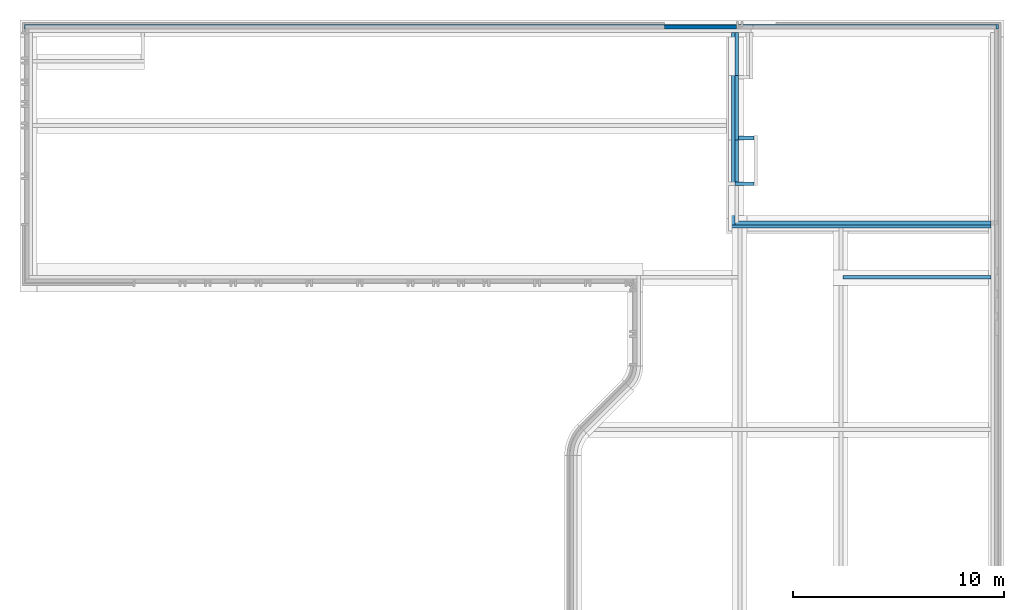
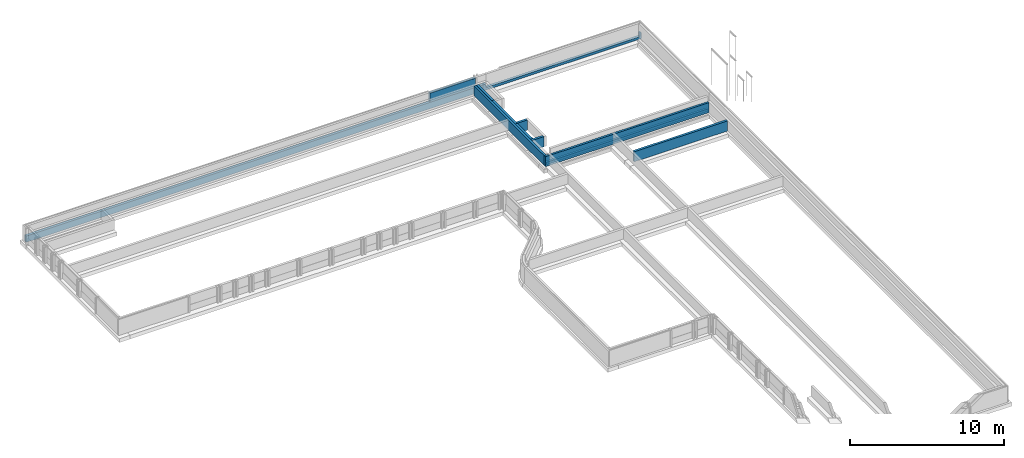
# One storey, part 8 of 15: 11 walls, 1 opening.
"""IFC2X3 building model written with IfcOpenShell, lengths in millimetres."""

from ifc_helpers import new_model, entity, si_unit, converted_unit, derived_unit, direction, frame, frame_2d, origin, place, context, subcontext, project, spatial, rectangle, extrude, material, layer, layer_set, layer_usage, type_object, element, save


model = new_model("IFC2X3")

# Units and contexts
model_context = context("Model", 3, precision=0.01, world=origin(), true_north=direction((6.123031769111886e-17, 1.0)))
body_context = subcontext(model_context, "Body", "Model", "MODEL_VIEW")
ifc_project = project(units=[si_unit("LENGTHUNIT", "METRE", prefix="MILLI"), si_unit("AREAUNIT", "SQUARE_METRE"), si_unit("VOLUMEUNIT", "CUBIC_METRE"), converted_unit("PLANEANGLEUNIT", "DEGREE", entity("IfcRatioMeasure", 0.017453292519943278), si_unit("PLANEANGLEUNIT", "RADIAN"), dimensions=[0, 0, 0, 0, 0, 0, 0]), si_unit("MASSUNIT", "GRAM", prefix="KILO"), derived_unit("MASSDENSITYUNIT", [(si_unit("MASSUNIT", "GRAM", prefix="KILO"), 1), (si_unit("LENGTHUNIT", "METRE"), -3)]), derived_unit("IONCONCENTRATIONUNIT", [(si_unit("MASSUNIT", "GRAM", prefix="KILO"), 1), (si_unit("LENGTHUNIT", "METRE"), -3)]), derived_unit("MOMENTOFINERTIAUNIT", [(si_unit("LENGTHUNIT", "METRE"), 4)]), si_unit("TIMEUNIT", "SECOND"), si_unit("FREQUENCYUNIT", "HERTZ"), si_unit("THERMODYNAMICTEMPERATUREUNIT", "DEGREE_CELSIUS"), derived_unit("THERMALTRANSMITTANCEUNIT", [(si_unit("MASSUNIT", "GRAM", prefix="KILO"), 1), (si_unit("THERMODYNAMICTEMPERATUREUNIT", "KELVIN"), -1), (si_unit("TIMEUNIT", "SECOND"), -3)]), derived_unit("THERMALCONDUCTANCEUNIT", [(si_unit("MASSUNIT", "GRAM", prefix="KILO"), 1), (si_unit("THERMODYNAMICTEMPERATUREUNIT", "KELVIN"), -1), (si_unit("TIMEUNIT", "SECOND"), -3), (si_unit("LENGTHUNIT", "METRE"), 1)]), derived_unit("VOLUMETRICFLOWRATEUNIT", [(si_unit("LENGTHUNIT", "METRE"), 3), (si_unit("TIMEUNIT", "SECOND"), -1)]), derived_unit("MASSFLOWRATEUNIT", [(si_unit("MASSUNIT", "GRAM", prefix="KILO"), 1), (si_unit("TIMEUNIT", "SECOND"), -1)]), derived_unit("ROTATIONALFREQUENCYUNIT", [(si_unit("TIMEUNIT", "SECOND"), -1)]), si_unit("ELECTRICCURRENTUNIT", "AMPERE"), si_unit("ELECTRICVOLTAGEUNIT", "VOLT"), si_unit("POWERUNIT", "WATT"), si_unit("FORCEUNIT", "NEWTON", prefix="KILO"), si_unit("ILLUMINANCEUNIT", "LUX"), si_unit("LUMINOUSFLUXUNIT", "LUMEN"), si_unit("LUMINOUSINTENSITYUNIT", "CANDELA"), derived_unit("USERDEFINED", [(si_unit("MASSUNIT", "GRAM", prefix="KILO"), -1), (si_unit("LENGTHUNIT", "METRE"), -2), (si_unit("TIMEUNIT", "SECOND"), 3), (si_unit("LUMINOUSFLUXUNIT", "LUMEN"), 1)]), derived_unit("USERDEFINED", [(si_unit("MASSUNIT", "GRAM", prefix="KILO"), 1), (si_unit("TIMEUNIT", "SECOND"), -3), (si_unit("LENGTHUNIT", "METRE"), 3), (si_unit("ELECTRICCURRENTUNIT", "AMPERE"), -2)]), derived_unit("SOUNDPOWERUNIT", [(si_unit("MASSUNIT", "GRAM", prefix="KILO"), 1), (si_unit("TIMEUNIT", "SECOND"), -3), (si_unit("LENGTHUNIT", "METRE"), 2)]), derived_unit("SOUNDPRESSUREUNIT", [(si_unit("MASSUNIT", "GRAM", prefix="KILO"), 1), (si_unit("LENGTHUNIT", "METRE"), -1), (si_unit("TIMEUNIT", "SECOND"), -2)]), derived_unit("LINEARVELOCITYUNIT", [(si_unit("LENGTHUNIT", "METRE"), 1), (si_unit("TIMEUNIT", "SECOND"), -1)]), si_unit("PRESSUREUNIT", "PASCAL"), derived_unit("USERDEFINED", [(si_unit("MASSUNIT", "GRAM", prefix="KILO"), 1), (si_unit("LENGTHUNIT", "METRE"), -2), (si_unit("TIMEUNIT", "SECOND"), -2)]), derived_unit("LINEARFORCEUNIT", [(si_unit("MASSUNIT", "GRAM", prefix="KILO"), 1), (si_unit("TIMEUNIT", "SECOND"), -2)]), derived_unit("PLANARFORCEUNIT", [(si_unit("MASSUNIT", "GRAM", prefix="KILO"), 1), (si_unit("LENGTHUNIT", "METRE"), -1), (si_unit("TIMEUNIT", "SECOND"), -2)]), derived_unit("SPECIFICHEATCAPACITYUNIT", [(si_unit("THERMODYNAMICTEMPERATUREUNIT", "KELVIN"), -1), (si_unit("LENGTHUNIT", "METRE"), 2), (si_unit("TIMEUNIT", "SECOND"), -2)]), derived_unit("HEATINGVALUEUNIT", [(si_unit("LENGTHUNIT", "METRE"), 2), (si_unit("TIMEUNIT", "SECOND"), -2)]), derived_unit("VAPORPERMEABILITYUNIT", [(si_unit("LENGTHUNIT", "METRE"), -1), (si_unit("TIMEUNIT", "SECOND"), 1)]), derived_unit("DYNAMICVISCOSITYUNIT", [(si_unit("MASSUNIT", "GRAM", prefix="KILO"), 1), (si_unit("TIMEUNIT", "SECOND"), -1), (si_unit("LENGTHUNIT", "METRE"), -1)]), derived_unit("THERMALEXPANSIONCOEFFICIENTUNIT", [(si_unit("THERMODYNAMICTEMPERATUREUNIT", "KELVIN"), -1)]), derived_unit("MODULUSOFELASTICITYUNIT", [(si_unit("MASSUNIT", "GRAM", prefix="KILO"), 1), (si_unit("LENGTHUNIT", "METRE"), -1), (si_unit("TIMEUNIT", "SECOND"), -2)]), derived_unit("ISOTHERMALMOISTURECAPACITYUNIT", [(si_unit("LENGTHUNIT", "METRE"), 3), (si_unit("MASSUNIT", "GRAM", prefix="KILO"), -1)]), derived_unit("MOISTUREDIFFUSIVITYUNIT", [(si_unit("TIMEUNIT", "SECOND"), -1), (si_unit("LENGTHUNIT", "METRE"), 2)])], contexts=[model_context])

# Site, building, storey
site_placement = place(None, frame((0.0, 300.0, 0.0)))
site = spatial("IfcSite", under=ifc_project, at=site_placement, Name="<Kadastrale nummers>", CompositionType="ELEMENT")
building_placement = place(site_placement, origin())
building = spatial("IfcBuilding", under=site, at=building_placement, CompositionType="ELEMENT")
storey_placement = place(building_placement, frame((0.0, 0.0, -1570.0)))
storey = spatial("IfcBuildingStorey", under=building, at=storey_placement, Name="-1 fundering", CompositionType="ELEMENT", Elevation=-1570.0)

# Walls
ifc_material_1 = material(Name="ISR_Gips")
ifc_layer_1 = layer(ifc_material_1, 1.0)
ifc_material_2 = material(Name="ISR_Beton ihwg")
ifc_layer_2 = layer(ifc_material_2, 178.0)
ifc_layer_3 = layer(ifc_material_1, 1.0)
ifc_layer_set_1 = layer_set([ifc_layer_1, ifc_layer_2, ifc_layer_3], Name="Basic Wall:28_DAT_ihw beton_180")
ifc_layer_usage_1 = layer_usage(ifc_layer_set_1, "AXIS2", "NEGATIVE", 90.00000000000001)
wall_type_1 = type_object("IfcWallType", Name="Basic Wall:28_DAT_ihw beton_180", PredefinedType="STANDARD", material=ifc_layer_set_1)
wall_1_placement = place(storey_placement, frame((36380.039937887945, 40685.0, 300.0)))
element("IfcWallStandardCase", 1, at=wall_1_placement, inside=storey, type_object=wall_type_1, material=ifc_layer_usage_1, Name="Basic Wall:28_DAT_ihw beton_180", ObjectType="Basic Wall:28_DAT_ihw beton_180", context=body_context, shape_type="SweptSolid", body=[
    extrude(rectangle(XDim=12119.960062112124, YDim=179.99999999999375, at=frame_2d((6059.980031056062, -2.1955770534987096e-12), x_axis=(-1.0, 0.0))), origin(), (0.0, 0.0, 1.0), 188.00000000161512),
])
ifc_layer_4 = layer(ifc_material_1, 1.0)
ifc_material_3 = material(Name="ISR_Kalkzandsteen")
ifc_layer_5 = layer(ifc_material_3, 173.0)
ifc_layer_6 = layer(ifc_material_1, 1.0)
ifc_layer_set_2 = layer_set([ifc_layer_4, ifc_layer_5, ifc_layer_6], Name="Basic Wall:28_DAT_kalkzandsteen_175mm")
ifc_layer_usage_2 = layer_usage(ifc_layer_set_2, "AXIS2", "NEGATIVE", 87.49999999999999)
wall_type_2 = type_object("IfcWallType", Name="Basic Wall:28_DAT_kalkzandsteen_175mm", PredefinedType="STANDARD", material=ifc_layer_set_2)
wall_2_placement = place(storey_placement, frame((36467.53993788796, 47680.0, 300.0), z_axis=(0.0, 0.0, 1.0), x_axis=(0.0, -1.0, 0.0)))
element("IfcWallStandardCase", 2, at=wall_2_placement, inside=storey, type_object=wall_type_2, material=ifc_layer_usage_2, Name="Basic Wall:28_DAT_kalkzandsteen_175mm", ObjectType="Basic Wall:28_DAT_kalkzandsteen_175mm", context=body_context, shape_type="SweptSolid", body=[
    extrude(rectangle(XDim=3058.6866772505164, YDim=175.00000000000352, at=frame_2d((1529.3433386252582, -2.4868995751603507e-13), x_axis=(-1.0, 0.0))), origin(), (0.0, 0.0, 1.0), 800.0000000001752),
])
wall_3_placement = place(storey_placement, frame((36555.03993788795, 44708.81332274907, 300.0)))
element("IfcWallStandardCase", 3, at=wall_3_placement, inside=storey, type_object=wall_type_2, material=ifc_layer_usage_2, Name="Basic Wall:28_DAT_kalkzandsteen_175mm", ObjectType="Basic Wall:28_DAT_kalkzandsteen_175mm", context=body_context, shape_type="SweptSolid", body=[
    extrude(rectangle(XDim=725.0000000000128, YDim=174.99999999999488, at=frame_2d((362.5000000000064, 6.181721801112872e-13), x_axis=(-1.0, 0.0))), origin(), (0.0, 0.0, 1.0), 800.0000000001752),
])
wall_4_placement = place(storey_placement, frame((36380.03993788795, 42534.62500267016, 300.0)))
element("IfcWallStandardCase", 4, at=wall_4_placement, inside=storey, type_object=wall_type_2, material=ifc_layer_usage_2, Name="Basic Wall:28_DAT_kalkzandsteen_175mm", ObjectType="Basic Wall:28_DAT_kalkzandsteen_175mm", context=body_context, shape_type="SweptSolid", body=[
    extrude(rectangle(XDim=900.0000000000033, YDim=174.99999999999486, at=frame_2d((450.00000000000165, 1.8189894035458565e-12), x_axis=(-1.0, 0.0))), origin(), (0.0, 0.0, 1.0), 800.0000000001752),
])
wall_5_placement = place(storey_placement, frame((41487.50000000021, 38112.49999999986, 300.0)))
element("IfcWallStandardCase", 5, at=wall_5_placement, inside=storey, type_object=wall_type_2, material=ifc_layer_usage_2, Name="Basic Wall:28_DAT_kalkzandsteen_175mm", ObjectType="Basic Wall:28_DAT_kalkzandsteen_175mm", context=body_context, shape_type="SweptSolid", body=[
    extrude(rectangle(XDim=7012.499999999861, YDim=175.00000000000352, at=frame_2d((3506.2499999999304, 1.7763568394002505e-13), x_axis=(-1.0, 0.0))), origin(), (0.0, 0.0, 1.0), 800.0000000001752),
])
wall_6_placement = place(storey_placement, frame((36467.53993788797, 49700.0, 300.0), z_axis=(0.0, 0.0, 1.0), x_axis=(0.0, -1.0, 0.0)))
element("IfcWallStandardCase", 6, at=wall_6_placement, inside=storey, type_object=wall_type_2, material=ifc_layer_usage_2, Name="Basic Wall:28_DAT_kalkzandsteen_175mm", ObjectType="Basic Wall:28_DAT_kalkzandsteen_175mm", context=body_context, shape_type="SweptSolid", body=[
    extrude(rectangle(XDim=2020.0000000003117, YDim=175.00000000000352, at=frame_2d((1010.0000000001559, 3.339550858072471e-13), x_axis=(-1.0, 0.0))), origin(), (0.0, 0.0, 1.0), 800.0000000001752),
])
wall_7_placement = place(storey_placement, frame((36467.53993788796, 44621.31332274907, 300.0), z_axis=(0.0, 0.0, 1.0), x_axis=(0.0, -1.0, 0.0)))
element("IfcWallStandardCase", 7, at=wall_7_placement, inside=storey, type_object=wall_type_2, material=ifc_layer_usage_2, Name="Basic Wall:28_DAT_kalkzandsteen_175mm", ObjectType="Basic Wall:28_DAT_kalkzandsteen_175mm", context=body_context, shape_type="SweptSolid", body=[
    extrude(rectangle(XDim=1999.1883200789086, YDim=175.00000000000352, at=frame_2d((999.5941600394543, 3.055333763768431e-13), x_axis=(-1.0, 0.0))), origin(), (0.0, 0.0, 1.0), 800.0000000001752),
])
ifc_material_4 = material(Name="ISR_Isolatie")
ifc_layer_7 = layer(ifc_material_4, 160.0)
ifc_layer_set_3 = layer_set([ifc_layer_7], Name="Basic Wall:21_DAT_isolatie minerale wol_160")
ifc_layer_usage_3 = layer_usage(ifc_layer_set_3, "AXIS2", "POSITIVE", -80.0)
wall_type_3 = type_object("IfcWallType", Name="Basic Wall:21_DAT_isolatie minerale wol_160", PredefinedType="STANDARD", material=ifc_layer_set_3)
wall_8_placement = place(storey_placement, frame((36220.03993788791, 40515.0, 300.0)))
element("IfcWallStandardCase", 8, at=wall_8_placement, inside=storey, type_object=wall_type_3, material=ifc_layer_usage_3, Name="Basic Wall:21_DAT_isolatie minerale wol_160", ObjectType="Basic Wall:21_DAT_isolatie minerale wol_160", context=body_context, shape_type="SweptSolid", body=[
    extrude(rectangle(XDim=12279.960062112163, YDim=159.9999999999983, at=frame_2d((6139.980031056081, -1.8047785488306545e-12), x_axis=(-1.0, 0.0))), origin(), (0.0, 0.0, 1.0), 788.0000000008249),
])
wall_9_placement = place(storey_placement, frame((36300.03993788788, 49700.0, 300.0), z_axis=(0.0, 0.0, 1.0), x_axis=(0.0, -1.0, 0.0)))
element("IfcWallStandardCase", 9, at=wall_9_placement, inside=storey, type_object=wall_type_3, material=ifc_layer_usage_3, Name="Basic Wall:21_DAT_isolatie minerale wol_160", ObjectType="Basic Wall:21_DAT_isolatie minerale wol_160", context=body_context, shape_type="SweptSolid", body=[
    extrude(rectangle(XDim=9104.999999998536, YDim=159.9999999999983, at=frame_2d((4552.499999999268, -1.4281908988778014e-12), x_axis=(-1.0, 0.0))), origin(), (0.0, 0.0, 1.0), 788.0000000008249),
])
ifc_material_5 = material(Name="ISR_Beton_prefab")
ifc_layer_8 = layer(ifc_material_5, 15.0)
ifc_layer_9 = layer(ifc_material_4, 175.0)
ifc_layer_set_4 = layer_set([ifc_layer_8, ifc_layer_9], Name="Basic Wall:21_DAT_gevelplint 175")
ifc_layer_usage_4 = layer_usage(ifc_layer_set_4, "AXIS2", "NEGATIVE", 95.00000000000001)
wall_type_4 = type_object("IfcWallType", Name="Basic Wall:21_DAT_gevelplint 175", PredefinedType="STANDARD", material=ifc_layer_set_4)
wall_10_placement = place(storey_placement, frame((33030.0, 49970.0, 800.0)))
element("IfcWallStandardCase", 10, at=wall_10_placement, inside=storey, type_object=wall_type_4, material=ifc_layer_usage_4, Name="Basic Wall:21_DAT_gevelplint 175", ObjectType="Basic Wall:21_DAT_gevelplint 175", context=body_context, shape_type="SweptSolid", body=[
    extrude(rectangle(XDim=3409.999999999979, YDim=189.99999999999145, at=frame_2d((1704.9999999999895, 0.0), x_axis=(-1.0, 0.0))), origin(), (0.0, 0.0, 1.0), 730.0000000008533),
])

# Wall, opening
ifc_material_6 = material(Name="ISR_Speci ihwg(1)")
ifc_layer_10 = layer(ifc_material_6, 195.0)
ifc_layer_set_5 = layer_set([ifc_layer_10], Name="Basic Wall:28_DAT_ihw specie")
ifc_layer_usage_5 = layer_usage(ifc_layer_set_5, "AXIS2", "NEGATIVE", 97.5)
wall_type_5 = type_object("IfcWallType", Name="Basic Wall:28_DAT_ihw specie", PredefinedType="STANDARD", material=ifc_layer_set_5)
wall_11_placement = place(storey_placement, frame((2725.0, 49977.49999999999, 300.0)))
wall_11 = element("IfcWallStandardCase", 11, at=wall_11_placement, inside=storey, type_object=wall_type_5, material=ifc_layer_usage_5, Name="Basic Wall:28_DAT_ihw specie", ObjectType="Basic Wall:28_DAT_ihw specie", context=body_context, shape_type="SweptSolid", body=[
    extrude(rectangle(XDim=46149.99999999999, YDim=195.00000000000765, at=frame_2d((23074.999999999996, 0.0), x_axis=(-1.0, 0.0))), origin(), (0.0, 0.0, 1.0), 500.00000000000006),
])
opening_placement = place(wall_11_placement, origin())
element("IfcOpeningElement", 12, at=opening_placement, cuts=wall_11, Name="Basic Wall:28_DAT_ihw specie", ObjectType="Opening", context=body_context, shape_type="SweptSolid", body=[
    extrude(rectangle(XDim=1080.0000000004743, YDim=11520.000000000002, at=frame_2d((0.0, -1.8189894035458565e-12), x_axis=(1.0, 0.0))), frame((40270.0, -249.89999999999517, 740.0), z_axis=(0.0, 1.0, 0.0), x_axis=(0.0, 0.0, 1.0)), (0.0, 0.0, 1.0), 499.799999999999),
])

save(model, "model.ifc")
